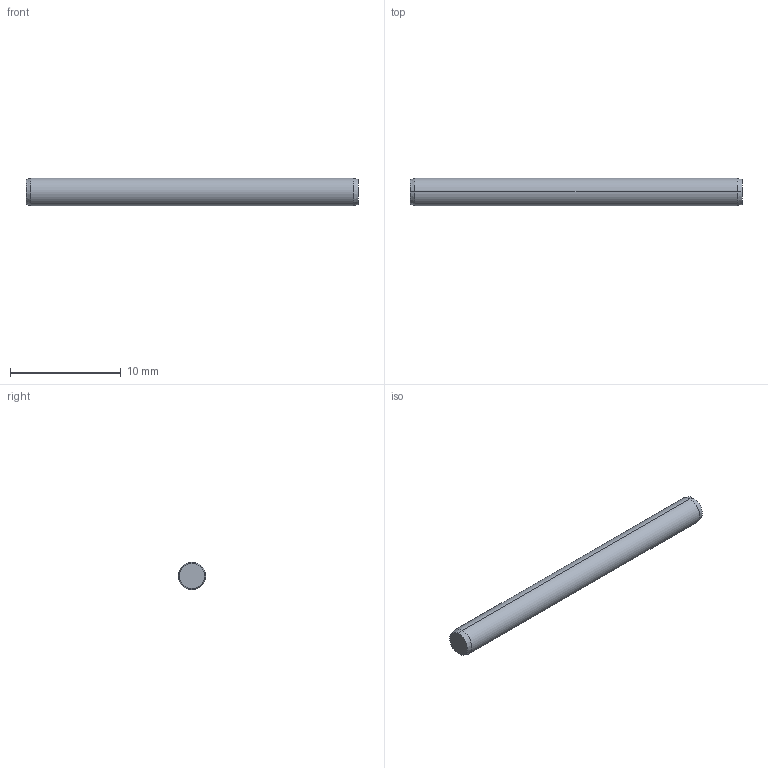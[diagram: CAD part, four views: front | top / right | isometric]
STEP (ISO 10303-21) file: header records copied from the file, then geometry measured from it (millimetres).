
FILE_DESCRIPTION (( 'STEP AP203' ), '1' );
FILE_NAME ('P1206.025-030.step', '2017-06-14T08:02:20', ( 'User' ), ( '' ), 'SwSTEP 2.0', 'SolidWorks 2009', '' );
FILE_SCHEMA (( 'CONFIG_CONTROL_DESIGN' ));
Length unit declared in the file: millimetre
Products named in the file (1): P1206.025-030
Bounding box: 30 x 2.5 x 2.5 mm (x, y, z)
Volume: 146.8 mm3; surface area: 243.5 mm2
Topology: 1 solids, 1 shells, 8 faces, 14 edges, 8 vertices
Faces by surface type: cone 4, cylinder 2, plane 2
Entity records: 271 total; most frequent: DIRECTION 40, CARTESIAN_POINT 31, ORIENTED_EDGE 28, AXIS2_PLACEMENT_3D 17, EDGE_CURVE 14, EDGE_LOOP 8, ADVANCED_FACE 8, VERTEX_POINT 8
